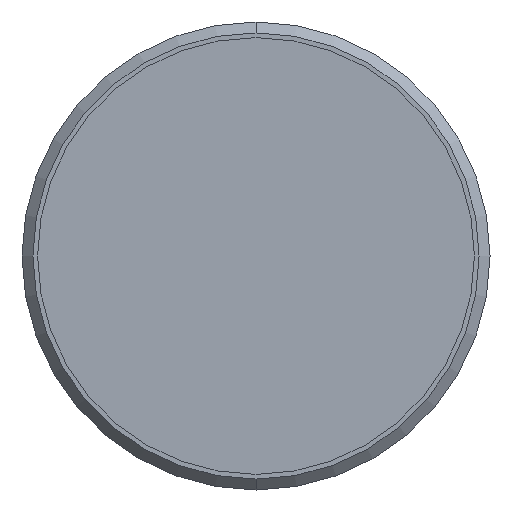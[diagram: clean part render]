
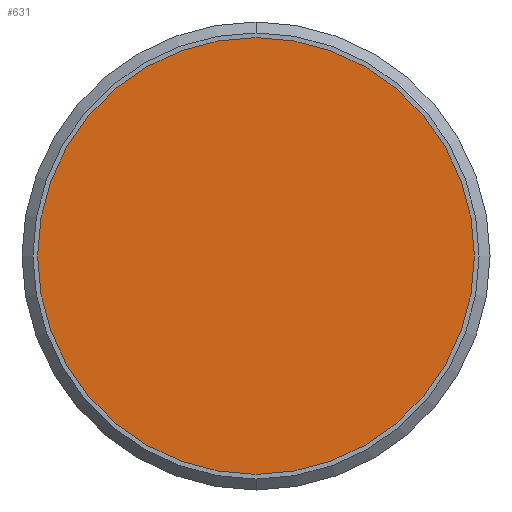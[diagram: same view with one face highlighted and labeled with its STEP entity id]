
A CAD part, front view. The second image highlights one B-rep face of the part: STEP entity #631.
In plain terms, the highlighted planar face has unit normal (0, -1, 0).
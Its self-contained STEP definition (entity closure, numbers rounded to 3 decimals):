
#84 = DIRECTION ( 'NONE',  ( 0., 0., 1. ) ) ;
#121 = AXIS2_PLACEMENT_3D ( 'NONE', #719, #190, #84 ) ;
#190 = DIRECTION ( 'NONE',  ( 0., 1., 0. ) ) ;
#202 = AXIS2_PLACEMENT_3D ( 'NONE', #357, #1093, #443 ) ;
#214 = CIRCLE ( 'NONE', #121, 14. ) ;
#321 = EDGE_CURVE ( 'NONE', #1128, #465, #1210, .T. ) ;
#357 = CARTESIAN_POINT ( 'NONE',  ( 0., 0., 0. ) ) ;
#387 = ORIENTED_EDGE ( 'NONE', *, *, #597, .F. ) ;
#443 = DIRECTION ( 'NONE',  ( 0., 0., 1. ) ) ;
#465 = VERTEX_POINT ( 'NONE', #687 ) ;
#597 = EDGE_CURVE ( 'NONE', #465, #1128, #214, .T. ) ;
#599 = DIRECTION ( 'NONE',  ( 0., 0., 1. ) ) ;
#631 = ADVANCED_FACE ( 'NONE', ( #982 ), #913, .F. ) ;
#687 = CARTESIAN_POINT ( 'NONE',  ( 0., 0., 14. ) ) ;
#719 = CARTESIAN_POINT ( 'NONE',  ( 0., 0., 0. ) ) ;
#765 = AXIS2_PLACEMENT_3D ( 'NONE', #1014, #1025, #599 ) ;
#913 = PLANE ( 'NONE',  #765 ) ;
#982 = FACE_OUTER_BOUND ( 'NONE', #1050, .T. ) ;
#1014 = CARTESIAN_POINT ( 'NONE',  ( 0., 0., 0. ) ) ;
#1025 = DIRECTION ( 'NONE',  ( 0., 1., 0. ) ) ;
#1050 = EDGE_LOOP ( 'NONE', ( #1314, #387 ) ) ;
#1093 = DIRECTION ( 'NONE',  ( 0., 1., 0. ) ) ;
#1128 = VERTEX_POINT ( 'NONE', #1156 ) ;
#1156 = CARTESIAN_POINT ( 'NONE',  ( 0., 0., -14. ) ) ;
#1210 = CIRCLE ( 'NONE', #202, 14. ) ;
#1314 = ORIENTED_EDGE ( 'NONE', *, *, #321, .F. ) ;
